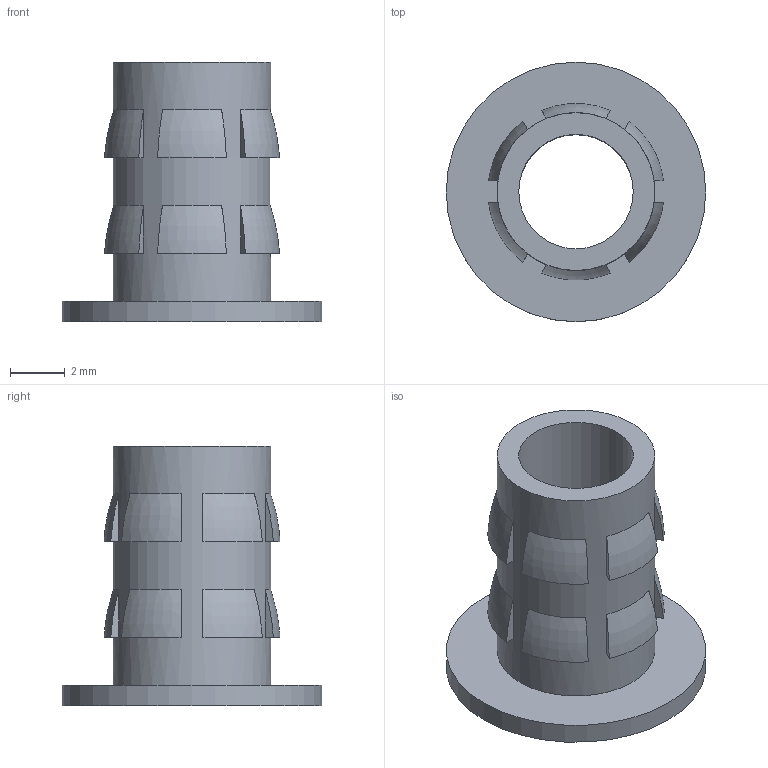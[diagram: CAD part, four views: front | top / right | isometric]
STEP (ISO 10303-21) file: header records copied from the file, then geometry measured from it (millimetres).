
FILE_DESCRIPTION (( 'STEP AP214' ), '1' );
FILE_NAME ('flanged insert M5.STEP', '2017-08-09T04:32:04', ( '微软用户' ), ( '微软中国' ), 'SwSTEP 2.0', 'SolidWorks 2015', '' );
FILE_SCHEMA (( 'AUTOMOTIVE_DESIGN' ));
Length unit declared in the file: millimetre
Products named in the file (1): flanged insert M5
Bounding box: 9.53 x 9.53 x 9.53 mm (x, y, z)
Volume: 157.4 mm3; surface area: 441.2 mm2
Topology: 1 solids, 1 shells, 55 faces, 119 edges, 79 vertices
Faces by surface type: plane 39, torus 12, cylinder 3, cone 1
Full cylindrical faces by diameter (mm): 4.2 x1, 5.791 x1, 9.525 x1
Entity records: 2183 total; most frequent: CARTESIAN_POINT 350, DIRECTION 246, ORIENTED_EDGE 230, EDGE_CURVE 115, AXIS2_PLACEMENT_3D 99, VERTEX_POINT 79, EDGE_LOOP 74, UNCERTAINTY_MEASURE_WITH_UNIT 58
